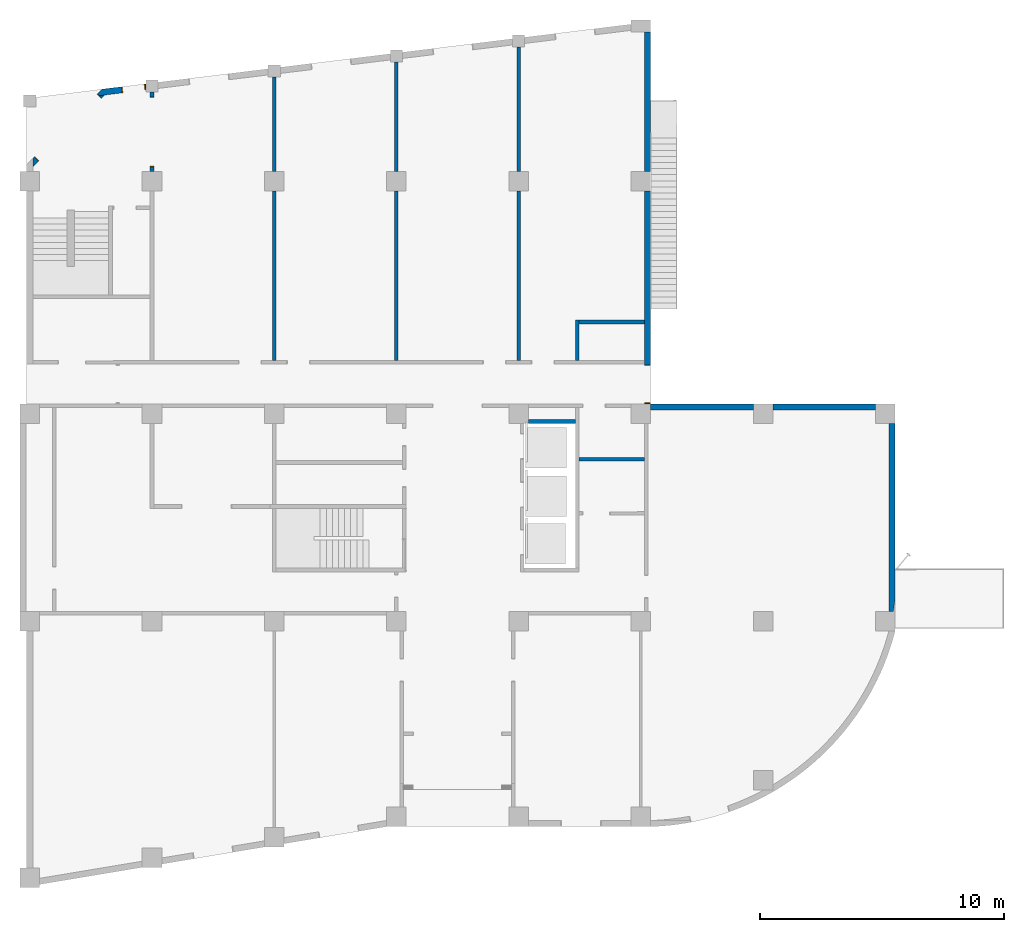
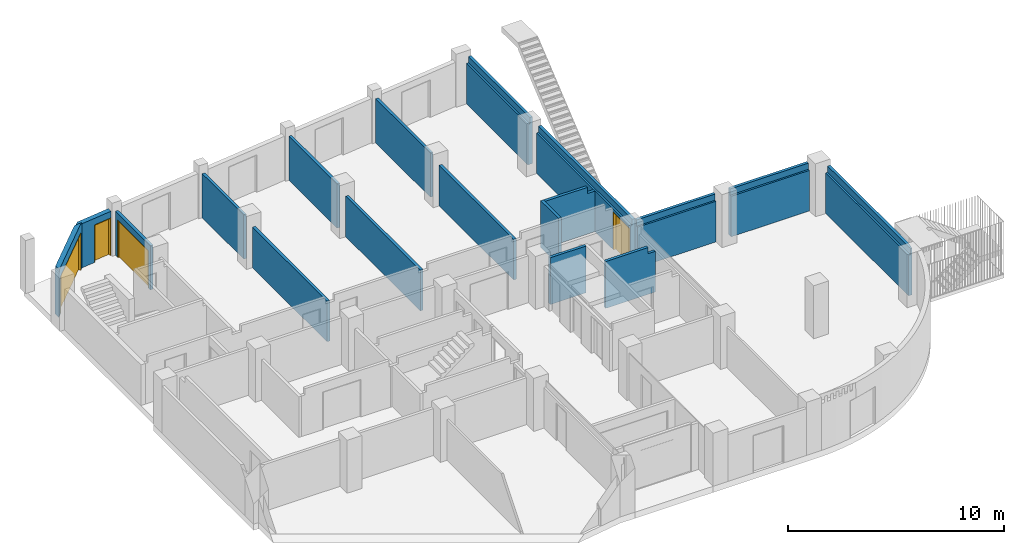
# One storey, part 7 of 9: 18 walls, 4 doors, 4 openings.
"""IFC2X3 building model written with IfcOpenShell, lengths in millimetres."""

from ifc_helpers import new_model, entity, si_unit, converted_unit, derived_unit, money_unit, direction, frame, origin_with_axes, place, context, subcontext, project, spatial, open_shell, faceted_brep, surface_model, material, type_object, element, fill, save


model = new_model("IFC2X3")

# Units and contexts
model_context = context("Model", 3, precision=0.01, world=origin_with_axes(), true_north=direction((0.0, 1.0)))
body_context = subcontext(model_context, "Body", "Model", "MODEL_VIEW")
ifc_project = project(units=[si_unit("LENGTHUNIT", "METRE", prefix="MILLI"), si_unit("AREAUNIT", "SQUARE_METRE"), si_unit("VOLUMEUNIT", "CUBIC_METRE"), converted_unit("PLANEANGLEUNIT", "DEGREE", entity("IfcPlaneAngleMeasure", 0.0174532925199), si_unit("PLANEANGLEUNIT", "RADIAN"), dimensions=[0, 0, 0, 0, 0, 0, 0]), si_unit("SOLIDANGLEUNIT", "STERADIAN"), money_unit("JPY"), converted_unit("TIMEUNIT", "Year", entity("IfcTimeMeasure", 31556926.0), si_unit("TIMEUNIT", "SECOND"), dimensions=[0, 0, 1, 0, 0, 0, 0]), si_unit("MASSUNIT", "GRAM", prefix="KILO"), si_unit("THERMODYNAMICTEMPERATUREUNIT", "DEGREE_CELSIUS"), si_unit("LUMINOUSINTENSITYUNIT", "LUMEN"), si_unit("ENERGYUNIT", "JOULE", prefix="MEGA"), derived_unit("THERMALCONDUCTANCEUNIT", [(si_unit("POWERUNIT", "WATT"), 1), (si_unit("LENGTHUNIT", "METRE"), -1), (si_unit("THERMODYNAMICTEMPERATUREUNIT", "KELVIN"), -1)]), derived_unit("SPECIFICHEATCAPACITYUNIT", [(si_unit("ENERGYUNIT", "JOULE"), 1), (si_unit("MASSUNIT", "GRAM", prefix="KILO"), -1), (si_unit("THERMODYNAMICTEMPERATUREUNIT", "KELVIN"), -1)]), derived_unit("MASSDENSITYUNIT", [(si_unit("MASSUNIT", "GRAM", prefix="KILO"), 1), (si_unit("VOLUMEUNIT", "CUBIC_METRE"), -1)])], contexts=[model_context])

# Site, building, storey
site_placement = place(None, origin_with_axes())
site = spatial("IfcSite", under=ifc_project, at=site_placement, Name="サイト", CompositionType="ELEMENT")
building_placement = place(site_placement, origin_with_axes())
building = spatial("IfcBuilding", under=site, at=building_placement, Name="建築", CompositionType="ELEMENT")
storey_placement = place(building_placement, origin_with_axes())
storey = spatial("IfcBuildingStorey", under=building, at=storey_placement, Name="1FL", CompositionType="ELEMENT", Elevation=0.0)

# Wall
ifc_material = material(Name="コンクリート")
wall_type_1 = type_object("IfcWallType", Name="コンクリート 150", PredefinedType="NOTDEFINED")
wall_1_placement = place(storey_placement, frame((22400.0, 6625.000045, 0.0), z_axis=(0.0, 0.0, 1.0), x_axis=(1.0, 0.0, 0.0)))
element("IfcWall", 1, at=wall_1_placement, inside=storey, type_object=wall_type_1, material=ifc_material, Name="W8", context=body_context, shape_type="Brep", body=[
    faceted_brep([(75.0, 75.0, 2650.0), (2350.0, 75.0, 2650.0), (2350.0, 75.0, 2300.0), (2749.9999795, 75.0, 2300.0), (2749.9999795, 75.0, 0.0), (75.0, 75.0, 0.0), (75.0, -75.0, 2650.0), (2350.0, -75.0, 2650.0), (2350.0, -75.0, 2300.0), (2749.9999795, -75.0, 2300.0), (2749.9999795, -75.0, 0.0), (75.0, -75.0, 0.0)], [[[0, 1, 2, 3, 4, 5]], [[6, 7, 1, 0]], [[8, 2, 1, 7]], [[8, 9, 3, 2]], [[4, 3, 9, 10]], [[11, 5, 4, 10]], [[5, 11, 6, 0]], [[9, 8, 7, 6, 11, 10]]]),
])

# Wall, opening, door
wall_2_placement = place(storey_placement, frame((5000.0, 21896.9524811, 0.0), z_axis=(0.0, 0.0, 1.0), x_axis=(0.0, -1.0, 0.0)))
wall_2 = element("IfcWall", 2, at=wall_2_placement, inside=storey, type_object=wall_type_1, material=ifc_material, Name="W1", context=body_context, shape_type="Brep", body=[
    faceted_brep([(3303.49998638, 75.0, 0.0), (3303.49998638, 75.0, 2130.0), (443.499986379, 75.0, 2130.0), (443.499986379, 75.0, 0.0), (250.0, 75.0, 0.0), (250.0, 75.0, 2500.0), (3496.95248113, 75.0, 2500.0), (3496.95248113, 75.0, 0.0), (3303.49998638, -75.0, 0.0), (3303.49998638, -75.0, 2130.0), (443.499986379, -75.0, 2130.0), (443.499986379, -75.0, 0.0), (250.0, -75.0, 0.0), (250.0, -75.0, 2500.0), (3496.95248113, -75.0, 2500.0), (3496.95248113, -75.0, 0.0)], [[[0, 1, 2, 3, 4, 5, 6, 7]], [[1, 0, 8, 9]], [[2, 1, 9, 10]], [[3, 2, 10, 11]], [[3, 11, 12, 4]], [[13, 5, 4, 12]], [[14, 6, 5, 13]], [[7, 6, 14, 15]], [[8, 0, 7, 15]], [[9, 8, 15, 14, 13, 12, 11, 10]]]),
])
opening_1_placement = place(wall_2_placement, frame((1873.49998638, 0.0, 0.0), z_axis=(0.0, 0.0, 1.0), x_axis=(1.0, 0.0, 0.0)))
opening_1 = element("IfcOpeningElement", 3, at=opening_1_placement, cuts=wall_2, Name="SD2", context=body_context, shape_type="Brep", body=[
    faceted_brep([(1430.0, 160.0, 0.0), (1430.0, 160.0, 2130.0), (1430.0, -160.0, 2130.0), (1430.0, -160.0, 0.0), (-1430.0, 160.0, 0.0), (-1430.0, 160.0, 2130.0), (-1430.0, -160.0, 2130.0), (-1430.0, -160.0, 0.0)], [[[0, 1, 2, 3]], [[0, 4, 5, 1]], [[1, 5, 6, 2]], [[3, 2, 6, 7]], [[4, 0, 3, 7]], [[5, 4, 7, 6]]]),
])
door_style_1 = type_object("IfcDoorStyle", Name="両引き分戸2", ConstructionType="NOTDEFINED", OperationType="NOTDEFINED", ParameterTakesPrecedence=False, Sizeable=False)
door_1_placement = place(opening_1_placement, frame((1400.0, 0.0, 0.0), z_axis=(0.0, 0.0, 1.0), x_axis=(-1.0, 0.0, 0.0)))
door_1 = element("IfcDoor", 4, at=door_1_placement, inside=storey, type_object=door_style_1, Name="SD2", OverallHeight=2150.0, OverallWidth=2900.0, context=body_context, shape_type="SurfaceModel", body=[
    surface_model("IfcShellBasedSurfaceModel", [(725.0, 0.0, 0.0), (0.0, 0.0, 0.0), (0.0, 0.0, 2100.0), (725.0, 0.0, 2100.0), (675.0, 0.0, 150.0), (675.0, 0.0, 2050.0), (50.0, 0.0, 2050.0), (50.0, 0.0, 150.0)], [open_shell([[[0, 1, 2, 3], [4, 5, 6, 7]]])]),
    surface_model("IfcShellBasedSurfaceModel", [(675.0, 0.0, 150.0), (50.0, 0.0, 150.0), (50.0, 0.0, 2050.0), (675.0, 0.0, 2050.0)], [open_shell([[[0, 1, 2, 3]]])]),
    surface_model("IfcShellBasedSurfaceModel", [(675.0, -10.5, 2100.0), (1400.0, -10.5, 2100.0), (1400.0, -10.5, 1950.0), (675.0, -10.5, 1950.0)], [open_shell([[[0, 1, 2, 3]]])]),
    surface_model("IfcShellBasedSurfaceModel", [(675.0, -10.5, 0.0), (675.0, -10.5, 150.0), (1400.0, -10.5, 150.0), (1400.0, -10.5, 0.0)], [open_shell([[[0, 1, 2, 3]]])]),
    surface_model("IfcShellBasedSurfaceModel", [(675.0, -10.5, 150.0), (675.0, -10.5, 1950.0), (1400.0, -10.5, 1950.0), (1400.0, -10.5, 150.0)], [open_shell([[[0, 1, 2, 3]]])]),
    surface_model("IfcShellBasedSurfaceModel", [(2125.0, -10.5, 2100.0), (2125.0, -10.5, 1950.0), (1400.0, -10.5, 1950.0), (1400.0, -10.5, 2100.0)], [open_shell([[[0, 1, 2, 3]]])]),
    surface_model("IfcShellBasedSurfaceModel", [(2125.0, -10.5, 0.0), (1400.0, -10.5, 0.0), (1400.0, -10.5, 150.0), (2125.0, -10.5, 150.0)], [open_shell([[[0, 1, 2, 3]]])]),
    surface_model("IfcShellBasedSurfaceModel", [(2125.0, -10.5, 150.0), (1400.0, -10.5, 150.0), (1400.0, -10.5, 1950.0), (2125.0, -10.5, 1950.0)], [open_shell([[[0, 1, 2, 3]]])]),
    surface_model("IfcShellBasedSurfaceModel", [(2800.0, 0.0, 0.0), (2075.0, 0.0, 0.0), (2075.0, 0.0, 2100.0), (2800.0, 0.0, 2100.0), (2750.0, 0.0, 150.0), (2750.0, 0.0, 2050.0), (2125.0, 0.0, 2050.0), (2125.0, 0.0, 150.0)], [open_shell([[[0, 1, 2, 3], [4, 5, 6, 7]]])]),
    surface_model("IfcShellBasedSurfaceModel", [(2750.0, 0.0, 150.0), (2125.0, 0.0, 150.0), (2125.0, 0.0, 2050.0), (2750.0, 0.0, 2050.0)], [open_shell([[[0, 1, 2, 3]]])]),
    surface_model("IfcShellBasedSurfaceModel", [(-30.0, 75.0, 0.0), (-30.0, 75.0, 2130.0), (2830.0, 75.0, 2130.0), (2830.0, 75.0, 0.0), (2800.0, 75.0, 0.0), (2800.0, 75.0, 2100.0), (0.0, 75.0, 2100.0), (0.0, 75.0, 0.0)], [open_shell([[[0, 1, 2, 3, 4, 5, 6, 7]]])]),
    surface_model("IfcShellBasedSurfaceModel", [(-30.0, -75.0, 0.0), (-30.0, -75.0, 2130.0), (2830.0, -75.0, 2130.0), (2830.0, -75.0, 0.0), (2800.0, -75.0, 0.0), (2800.0, -75.0, 2100.0), (0.0, -75.0, 2100.0), (0.0, -75.0, 0.0)], [open_shell([[[0, 1, 2, 3, 4, 5, 6, 7]]])]),
    surface_model("IfcShellBasedSurfaceModel", [(0.0, 75.0, 0.0), (0.0, 75.0, 2100.0), (0.0, -75.0, 2100.0), (0.0, -75.0, 0.0), (2800.0, 75.0, 2100.0), (2800.0, -75.0, 2100.0), (-30.0, 75.0, 0.0), (-30.0, -75.0, 0.0), (2800.0, 75.0, 0.0), (2800.0, -75.0, 0.0), (-30.0, 75.0, 2130.0), (-30.0, -75.0, 2130.0), (2830.0, 75.0, 0.0), (2830.0, -75.0, 0.0), (2830.0, 75.0, 2130.0), (2830.0, -75.0, 2130.0)], [open_shell([[[0, 1, 2, 3]], [[1, 4, 5, 2]], [[6, 0, 3, 7]], [[4, 8, 9, 5]], [[10, 6, 7, 11]], [[8, 12, 13, 9]], [[14, 10, 11, 15]], [[12, 14, 15, 13]]])]),
])
fill(opening_1, door_1)

# Walls
for number, where, z_axis, x_axis, name in (
    (5, (10000.0, 18000.0, 0.0), (0.0, 0.0, 1.0), (0.0, -1.0, 0.0), "W3"),
    (6, (15000.0, 18000.0, 0.0), (0.0, 0.0, 1.0), (0.0, -1.0, 0.0), "W4"),
):
    element("IfcWall", number, at=place(storey_placement, frame(where, z_axis=z_axis, x_axis=x_axis)), inside=storey, type_object=wall_type_1, material=ifc_material, Name=name, context=body_context, shape_type="Brep", body=[
        faceted_brep([(7325.0, 75.0, 0.0), (400.0, 75.0, 0.0), (400.0, 75.0, 2300.0), (7325.0, 75.0, 2300.0), (7325.0, -75.0, 0.0), (400.0, -75.0, 0.0), (400.0, -75.0, 2300.0), (7325.0, -75.0, 2300.0)], [[[0, 1, 2, 3]], [[4, 5, 1, 0]], [[5, 6, 2, 1]], [[3, 2, 6, 7]], [[4, 0, 3, 7]], [[7, 6, 5, 4]]]),
    ])
wall_3_placement = place(storey_placement, frame((15000.0, 18000.0, 0.0), z_axis=(0.0, 0.0, 1.0), x_axis=(0.0, 1.0, 0.0)))
element("IfcWall", 7, at=wall_3_placement, inside=storey, type_object=wall_type_1, material=ifc_material, Name="W5", context=body_context, shape_type="Brep", body=[
    faceted_brep([(4874.79809016, 75.0, 2500.0), (400.0, 75.0, 2500.0), (400.0, -75.0, 2500.0), (4874.79809016, -75.0, 2500.0), (4874.79809016, 75.0, 0.0), (400.0, 75.0, 0.0), (400.0, -75.0, 0.0), (4874.79809016, -75.0, 0.0)], [[[0, 1, 2, 3]], [[4, 5, 1, 0]], [[5, 6, 2, 1]], [[3, 2, 6, 7]], [[4, 0, 3, 7]], [[7, 6, 5, 4]]]),
])
wall_4_placement = place(storey_placement, frame((10000.0, 18000.0, 0.0), z_axis=(0.0, 0.0, 1.0), x_axis=(0.0, 1.0, 0.0)))
element("IfcWall", 8, at=wall_4_placement, inside=storey, type_object=wall_type_1, material=ifc_material, Name="W6", context=body_context, shape_type="Brep", body=[
    faceted_brep([(4260.87528565, 75.0, 2500.0), (400.0, 75.0, 2500.0), (400.0, -75.0, 2500.0), (4260.87528565, -75.0, 2500.0), (4260.87528565, 75.0, 0.0), (400.0, 75.0, 0.0), (400.0, -75.0, 0.0), (4260.87528565, -75.0, 0.0)], [[[0, 1, 2, 3]], [[4, 5, 1, 0]], [[5, 6, 2, 1]], [[3, 2, 6, 7]], [[4, 0, 3, 7]], [[7, 6, 5, 4]]]),
])
wall_5_placement = place(storey_placement, frame((20000.0, 23738.7208947, 0.0), z_axis=(0.0, 0.0, 1.0), x_axis=(0.0, -1.0, 0.0)))
element("IfcWall", 9, at=wall_5_placement, inside=storey, type_object=wall_type_1, material=ifc_material, Name="W7", context=body_context, shape_type="Brep", body=[
    faceted_brep([(250.0, -75.0, 2500.0), (5338.72089468, -75.0, 2500.0), (5338.72089468, 75.0, 2500.0), (250.0, 75.0, 2500.0), (250.0, -75.0, 0.0), (5338.72089468, -75.0, 0.0), (5338.72089468, 75.0, 0.0), (250.0, 75.0, 0.0)], [[[0, 1, 2, 3]], [[4, 5, 1, 0]], [[5, 6, 2, 1]], [[3, 2, 6, 7]], [[4, 0, 3, 7]], [[7, 6, 5, 4]]]),
])
wall_6_placement = place(storey_placement, frame((20000.0, 18000.0, 0.0), z_axis=(0.0, 0.0, 1.0), x_axis=(0.0, -1.0, 0.0)))
element("IfcWall", 10, at=wall_6_placement, inside=storey, type_object=wall_type_1, material=ifc_material, Name="W8", context=body_context, shape_type="Brep", body=[
    faceted_brep([(7325.0, 75.0, 0.0), (400.0, 75.0, 0.0), (400.0, 75.0, 2300.0), (7325.0, 75.0, 2300.0), (7325.0, -75.0, 0.0), (400.0, -75.0, 0.0), (400.0, -75.0, 2300.0), (7325.0, -75.0, 2300.0)], [[[0, 1, 2, 3]], [[4, 5, 1, 0]], [[5, 6, 2, 1]], [[3, 2, 6, 7]], [[4, 0, 3, 7]], [[7, 6, 5, 4]]]),
])
wall_7_placement = place(storey_placement, frame((22400.0000022, 10600.0, 0.0), z_axis=(0.0, 0.0, 1.0), x_axis=(0.0, 1.0, 0.0)))
element("IfcWall", 11, at=wall_7_placement, inside=storey, type_object=wall_type_1, material=ifc_material, Name="W9", context=body_context, shape_type="Brep", body=[
    faceted_brep([(1725.0, 75.0, 0.0), (1725.0, 75.0, 2650.0), (1725.0, -75.0, 2650.0), (1725.0, -75.0, 0.0), (75.0, 75.0, 0.0), (75.0, 75.0, 2650.0), (75.0, -75.0, 2650.0), (75.0, -75.0, 0.0)], [[[0, 1, 2, 3]], [[4, 5, 1, 0]], [[5, 6, 2, 1]], [[3, 2, 6, 7]], [[4, 0, 3, 7]], [[7, 6, 5, 4]]]),
])
wall_8_placement = place(storey_placement, frame((20150.0, 8175.0, 0.0), z_axis=(0.0, 0.0, 1.0), x_axis=(1.0, 0.0, 0.0)))
element("IfcWall", 12, at=wall_8_placement, inside=storey, type_object=wall_type_1, material=ifc_material, Name="W8", context=body_context, shape_type="Brep", body=[
    faceted_brep([(2175.0, 75.0, 0.0), (250.0, 75.0, 0.0), (250.0, 75.0, 2650.0), (2175.0, 75.0, 2650.0), (2175.0, -75.0, 0.0), (250.0, -75.0, 0.0), (250.0, -75.0, 2650.0), (2175.0, -75.0, 2650.0)], [[[0, 1, 2, 3]], [[4, 5, 1, 0]], [[5, 6, 2, 1]], [[3, 2, 6, 7]], [[7, 4, 0, 3]], [[7, 6, 5, 4]]]),
])
wall_9_placement = place(storey_placement, frame((22400.0000022, 12250.0, 0.0), z_axis=(0.0, 0.0, 1.0), x_axis=(1.0, 0.0, 0.0)))
element("IfcWall", 13, at=wall_9_placement, inside=storey, type_object=wall_type_1, material=ifc_material, Name="W0", context=body_context, shape_type="Brep", body=[
    faceted_brep([(75.0, 75.0, 2650.0), (2349.99999782, 75.0, 2650.0), (2349.99999782, 75.0, 2300.0), (2750.0, 75.0, 2300.0), (2750.0, 75.0, 0.0), (75.0, 75.0, 0.0), (75.0, -75.0, 2650.0), (2349.99999782, -75.0, 2650.0), (2349.99999782, -75.0, 2300.0), (2750.0, -75.0, 2300.0), (2750.0, -75.0, 0.0), (75.0, -75.0, 0.0)], [[[0, 1, 2, 3, 4, 5]], [[6, 7, 1, 0]], [[8, 2, 1, 7]], [[8, 9, 3, 2]], [[4, 3, 9, 10]], [[11, 5, 4, 10]], [[5, 11, 6, 0]], [[9, 8, 7, 6, 11, 10]]]),
])
wall_type_2 = type_object("IfcWallType", Name="コンクリート 250", PredefinedType="NOTDEFINED")
wall_10_placement = place(storey_placement, frame((35274.9999654, -400.0, 0.0), z_axis=(0.0, 0.0, 1.0), x_axis=(0.0, 1.0, 0.0)))
element("IfcWall", 14, at=wall_10_placement, inside=storey, type_object=wall_type_2, material=ifc_material, Name="W0", context=body_context, shape_type="Brep", body=[
    faceted_brep([(8500.0, 24.9999654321, 2650.0), (800.0, 24.9999654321, 2650.0), (800.0, -49.6592128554, 2650.0), (925.128562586, -72.9281833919, 2650.0), (1242.6191428, -121.906495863, 2650.0), (1267.79551643, -125.000004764, 2650.0), (8500.0, -125.000034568, 2650.0), (8500.0, 24.9999654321, 2300.0), (800.0, 24.9999654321, 2300.0), (800.0, 125.0, 0.0), (800.0, -49.6592128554, 0.0), (800.0, 125.0, 2300.0), (925.128562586, -72.9281833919, 0.0), (1242.6191428, -121.906495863, 0.0), (1267.79551643, -125.0, 0.0), (8500.0, -125.000034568, 0.0), (8500.0, 125.0, 0.0), (8500.0, 125.0, 2300.0)], [[[0, 1, 2, 3, 4, 5, 6]], [[7, 8, 1, 0]], [[9, 10, 2, 1, 8, 11]], [[3, 2, 10, 12]], [[3, 12, 13, 4]], [[4, 13, 14, 5]], [[14, 15, 6, 5]], [[7, 0, 6, 15, 16, 17]], [[17, 11, 8, 7]], [[12, 10, 9, 16, 15, 14, 13]], [[16, 9, 11, 17]]]),
])
wall_11_placement = place(storey_placement, frame((35274.9999654, 8774.99999002, 0.0), z_axis=(0.0, 0.0, 1.0), x_axis=(-1.0, 0.0, 0.0)))
element("IfcWall", 15, at=wall_11_placement, inside=storey, type_object=wall_type_2, material=ifc_material, Name="W0", context=body_context, shape_type="Brep", body=[
    faceted_brep([(4874.99996543, 24.9999900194, 2650.0), (674.999965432, 24.9999900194, 2650.0), (674.999965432, -125.000009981, 2650.0), (4874.99996543, -125.000009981, 2650.0), (4874.99996543, 24.9999900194, 2300.0), (674.999965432, 24.9999900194, 2300.0), (674.999965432, 125.0, 0.0), (674.999965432, -125.000009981, 0.0), (674.999965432, 125.000010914, 2300.0), (4874.99996543, -125.000009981, 0.0), (4874.99996543, 125.0, 0.0), (4874.99996543, 125.000000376, 2300.0)], [[[0, 1, 2, 3]], [[4, 5, 1, 0]], [[6, 7, 2, 1, 5, 8]], [[3, 2, 7, 9]], [[4, 0, 3, 9, 10, 11]], [[11, 8, 5, 4]], [[9, 7, 6, 10]], [[10, 6, 8, 11]]]),
])
wall_12_placement = place(storey_placement, frame((30000.0, 8775.0, 0.0), z_axis=(0.0, 0.0, 1.0), x_axis=(-1.0, 0.0, 0.0)))
element("IfcWall", 16, at=wall_12_placement, inside=storey, type_object=wall_type_2, material=ifc_material, Name="W1", context=body_context, shape_type="Brep", body=[
    faceted_brep([(4600.0, 25.0, 2650.0), (400.0, 25.0, 2650.0), (400.0, -125.0, 2650.0), (4600.0, -125.0, 2650.0), (4600.0, 25.0, 2300.0), (400.0, 25.0, 2300.0), (400.0, 125.0, 0.0), (400.0, -125.0, 0.0), (400.0, 125.0, 2300.0), (4600.0, -125.0, 0.0), (4600.0, 125.0, 0.0), (4600.0, 125.0, 2300.0)], [[[0, 1, 2, 3]], [[4, 5, 1, 0]], [[6, 7, 2, 1, 5, 8]], [[3, 2, 7, 9]], [[4, 0, 3, 9, 10, 11]], [[11, 8, 5, 4]], [[9, 7, 6, 10]], [[10, 6, 8, 11]]]),
])

# Wall, opening, door
wall_13_placement = place(storey_placement, frame((25275.0000022, 8825.000045, 0.0), z_axis=(0.0, 0.0, 1.0), x_axis=(0.0, 1.0, 0.0)))
wall_13 = element("IfcWall", 17, at=wall_13_placement, inside=storey, type_object=wall_type_2, material=ifc_material, Name="W2", context=body_context, shape_type="Brep", body=[
    faceted_brep([(107.499955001, -124.999997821, 0.0), (107.499955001, -124.999997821, 2130.0), (1667.499955, -124.999997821, 2130.0), (1667.499955, -124.999997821, 0.0), (8774.999955, -124.999997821, 0.0), (8774.999955, -124.999997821, 2650.0), (74.999955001, -124.999997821, 2650.0), (74.999955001, -124.999997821, 0.0), (107.499955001, 125.0, 0.0), (107.499955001, 125.0, 2130.0), (1667.499955, 125.0, 2130.0), (1667.499955, 125.0, 0.0), (8774.999955, 125.0, 0.0), (8774.999955, 125.0, 2300.0), (8774.999955, 25.0000021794, 2300.0), (8774.999955, 25.0000021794, 2650.0), (74.999955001, 25.0000021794, 2650.0), (74.999955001, 25.0000021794, 2300.0), (74.999955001, 125.0, 2300.0), (74.999955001, 125.0, 0.0)], [[[0, 1, 2, 3, 4, 5, 6, 7]], [[1, 0, 8, 9]], [[2, 1, 9, 10]], [[3, 2, 10, 11]], [[3, 11, 12, 4]], [[4, 12, 13, 14, 15, 5]], [[16, 6, 5, 15]], [[16, 17, 18, 19, 7, 6]], [[8, 0, 7, 19]], [[9, 8, 19, 18, 13, 12, 11, 10]], [[18, 17, 14, 13]], [[17, 16, 15, 14]]]),
])
opening_2_placement = place(wall_13_placement, frame((887.499955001, 0.0, 0.0), z_axis=(0.0, 0.0, 1.0), x_axis=(1.0, 0.0, 0.0)))
opening_2 = element("IfcOpeningElement", 18, at=opening_2_placement, cuts=wall_13, Name="SD5", context=body_context, shape_type="Brep", body=[
    faceted_brep([(-780.0, -260.0, 0.0), (-780.0, -260.0, 2130.0), (-780.0, 260.0, 2130.0), (-780.0, 260.0, 0.0), (780.0, -260.0, 0.0), (780.0, -260.0, 2130.0), (780.0, 260.0, 2130.0), (780.0, 260.0, 0.0)], [[[0, 1, 2, 3]], [[0, 4, 5, 1]], [[1, 5, 6, 2]], [[3, 2, 6, 7]], [[4, 0, 3, 7]], [[5, 4, 7, 6]]]),
])
door_style_2 = type_object("IfcDoorStyle", Name="自由開き戸", ConstructionType="NOTDEFINED", OperationType="NOTDEFINED", ParameterTakesPrecedence=False, Sizeable=False)
door_2_placement = place(opening_2_placement, frame((750.0, 0.0, 0.0), z_axis=(0.0, 0.0, 1.0), x_axis=(-1.0, 0.0, 0.0)))
door_2 = element("IfcDoor", 19, at=door_2_placement, inside=storey, type_object=door_style_2, Name="SD5", OverallHeight=2150.0, OverallWidth=1600.0, context=body_context, shape_type="SurfaceModel", body=[
    surface_model("IfcShellBasedSurfaceModel", [(750.0, 0.0, 0.0), (0.0, 0.0, 0.0), (0.0, 0.0, 2100.0), (750.0, 0.0, 2100.0)], [open_shell([[[0, 1, 2, 3]]])]),
    surface_model("IfcShellBasedSurfaceModel", [(750.0, 0.0, 0.0), (750.0, 0.0, 2100.0), (1500.0, 0.0, 2100.0), (1500.0, 0.0, 0.0)], [open_shell([[[0, 1, 2, 3]]])]),
    surface_model("IfcShellBasedSurfaceModel", [(1530.0, 125.0, 0.0), (1500.0, 125.0, 0.0), (1500.0, 125.0, 2100.0), (0.0, 125.0, 2100.0), (0.0, 125.0, 0.0), (-30.0, 125.0, 0.0), (-30.0, 125.0, 2130.0), (1530.0, 125.0, 2130.0)], [open_shell([[[0, 1, 2, 3, 4, 5, 6, 7]]])]),
    surface_model("IfcShellBasedSurfaceModel", [(1530.0, -125.0, 0.0), (1500.0, -125.0, 0.0), (1500.0, -125.0, 2100.0), (0.0, -125.0, 2100.0), (0.0, -125.0, 0.0), (-30.0, -125.0, 0.0), (-30.0, -125.0, 2130.0), (1530.0, -125.0, 2130.0)], [open_shell([[[0, 1, 2, 3, 4, 5, 6, 7]]])]),
    surface_model("IfcShellBasedSurfaceModel", [(1500.0, 125.0, 0.0), (1500.0, -125.0, 0.0), (1500.0, -125.0, 2100.0), (1500.0, 125.0, 2100.0), (1530.0, 125.0, 0.0), (1530.0, -125.0, 0.0), (0.0, -125.0, 2100.0), (0.0, 125.0, 2100.0), (1530.0, 125.0, 2130.0), (1530.0, -125.0, 2130.0), (0.0, -125.0, 0.0), (0.0, 125.0, 0.0), (-30.0, 125.0, 2130.0), (-30.0, -125.0, 2130.0), (-30.0, -125.0, 0.0), (-30.0, 125.0, 0.0)], [open_shell([[[0, 1, 2, 3]], [[4, 5, 1, 0]], [[3, 2, 6, 7]], [[8, 9, 5, 4]], [[7, 6, 10, 11]], [[12, 13, 9, 8]], [[11, 10, 14, 15]], [[15, 14, 13, 12]]])]),
])
fill(opening_2, door_2)

# Wall
wall_14_placement = place(storey_placement, frame((25275.0000022, 18000.0, 0.0), z_axis=(0.0, 0.0, 1.0), x_axis=(0.0, 1.0, 0.0)))
element("IfcWall", 20, at=wall_14_placement, inside=storey, type_object=wall_type_2, material=ifc_material, Name="W3", context=body_context, shape_type="Brep", body=[
    faceted_brep([(6102.64369919, 25.0000021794, 2650.0), (400.0, 25.0000021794, 2650.0), (400.0, -124.999997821, 2650.0), (6102.64369919, -124.999997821, 2650.0), (6102.64369919, 25.0000021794, 2300.0), (400.0, 25.0000021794, 2300.0), (400.0, 125.0, 0.0), (400.0, -124.999997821, 0.0), (400.0, 125.0, 2300.0), (6102.64369919, -124.999997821, 0.0), (6102.64369919, 125.0, 0.0), (6102.64369919, 125.0, 2300.0)], [[[0, 1, 2, 3]], [[4, 5, 1, 0]], [[6, 7, 2, 1, 5, 8]], [[3, 2, 7, 9]], [[4, 0, 3, 9, 10, 11]], [[11, 8, 5, 4]], [[9, 7, 6, 10]], [[10, 6, 8, 11]]]),
])

# Wall, opening, door
wall_15_placement = place(storey_placement, frame((5000.0, 21896.9524811, 0.0), z_axis=(0.0, 0.0, 1.0), x_axis=(-0.992546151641, -0.121869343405, 0.0)))
wall_15 = element("IfcWall", 21, at=wall_15_placement, inside=storey, type_object=wall_type_2, material=ifc_material, Name="W8", context=body_context, shape_type="Brep", body=[
    faceted_brep([(2176.76323953, 125.0, 2130.0), (2176.76323953, 125.0, 0.0), (1241.73471986, 125.0, 0.0), (1241.73471986, 125.0, 2130.0), (281.734719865, 125.0, 2130.0), (281.734719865, 125.0, 0.0), (267.225526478, 125.0, 0.0), (267.225526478, 125.0, 2500.0), (2363.02635971, 125.0, 2500.0), (2363.02635971, 125.0, 2130.0), (2247.36423607, 34.6348452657, 2130.0), (2247.36423607, 34.6348452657, 0.0), (2043.04095166, -125.0, 0.0), (1241.73471986, -125.0, 0.0), (1241.73471986, -125.0, 2130.0), (281.734719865, -125.0, 2130.0), (281.734719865, -125.0, 0.0), (236.529386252, -125.0, 0.0), (236.529386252, -125.0, 2500.0), (2043.04095166, -125.0, 2500.0)], [[[0, 1, 2, 3, 4, 5, 6, 7, 8, 9]], [[1, 0, 10, 11]], [[1, 11, 12, 13, 2]], [[14, 3, 2, 13]], [[15, 4, 3, 14]], [[16, 5, 4, 15]], [[6, 5, 16, 17]], [[6, 17, 18, 7]], [[8, 7, 18, 19]], [[10, 9, 8, 19, 12, 11]], [[0, 9, 10]], [[15, 14, 13, 12, 19, 18, 17, 16]]]),
])
opening_3_placement = place(wall_15_placement, frame((761.734719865, 0.0, 0.0), z_axis=(0.0, 0.0, 1.0), x_axis=(1.0, 0.0, 0.0)))
opening_3 = element("IfcOpeningElement", 22, at=opening_3_placement, cuts=wall_15, Name="SD3", context=body_context, shape_type="Brep", body=[
    faceted_brep([(480.0, 260.0, 0.0), (480.0, 260.0, 2130.0), (480.0, -260.0, 2130.0), (480.0, -260.0, 0.0), (-480.0, 260.0, 0.0), (-480.0, 260.0, 2130.0), (-480.0, -260.0, 2130.0), (-480.0, -260.0, 0.0)], [[[0, 1, 2, 3]], [[0, 4, 5, 1]], [[1, 5, 6, 2]], [[3, 2, 6, 7]], [[4, 0, 3, 7]], [[5, 4, 7, 6]]]),
])
door_style_3 = type_object("IfcDoorStyle", Name="片開き戸", ConstructionType="NOTDEFINED", OperationType="NOTDEFINED", ParameterTakesPrecedence=False, Sizeable=False)
door_3_placement = place(opening_3_placement, frame((450.0, 0.0, 0.0), z_axis=(0.0, 0.0, 1.0), x_axis=(-1.0, 0.0, 0.0)))
door_3 = element("IfcDoor", 23, at=door_3_placement, inside=storey, type_object=door_style_3, Name="SD3", OverallHeight=2165.0, OverallWidth=1030.0, context=body_context, shape_type="SurfaceModel", body=[
    surface_model("IfcShellBasedSurfaceModel", [(0.0, 0.0, 0.0), (0.0, 0.0, 2100.0), (900.0, 0.0, 2100.0), (900.0, 0.0, 0.0)], [open_shell([[[0, 1, 2, 3]]])]),
    surface_model("IfcShellBasedSurfaceModel", [(-30.0, 125.0, 0.0), (-30.0, 125.0, 2130.0), (930.0, 125.0, 2130.0), (930.0, 125.0, 0.0), (900.0, 125.0, 0.0), (900.0, 125.0, 2100.0), (0.0, 125.0, 2100.0), (0.0, 125.0, 0.0)], [open_shell([[[0, 1, 2, 3, 4, 5, 6, 7]]])]),
    surface_model("IfcShellBasedSurfaceModel", [(-30.0, -125.0, 0.0), (-30.0, -125.0, 2130.0), (930.0, -125.0, 2130.0), (930.0, -125.0, 0.0), (900.0, -125.0, 0.0), (900.0, -125.0, 2100.0), (0.0, -125.0, 2100.0), (0.0, -125.0, 0.0)], [open_shell([[[0, 1, 2, 3, 4, 5, 6, 7]]])]),
    surface_model("IfcShellBasedSurfaceModel", [(0.0, 125.0, 0.0), (0.0, 125.0, 2100.0), (0.0, -125.0, 2100.0), (0.0, -125.0, 0.0), (900.0, 125.0, 2100.0), (900.0, -125.0, 2100.0), (-30.0, 125.0, 0.0), (-30.0, -125.0, 0.0), (900.0, 125.0, 0.0), (900.0, -125.0, 0.0), (-30.0, 125.0, 2130.0), (-30.0, -125.0, 2130.0), (930.0, 125.0, 0.0), (930.0, -125.0, 0.0), (930.0, 125.0, 2130.0), (930.0, -125.0, 2130.0)], [open_shell([[[0, 1, 2, 3]], [[1, 4, 5, 2]], [[6, 0, 3, 7]], [[4, 8, 9, 5]], [[10, 6, 7, 11]], [[8, 12, 13, 9]], [[14, 10, 11, 15]], [[12, 14, 15, 13]]])]),
])
fill(opening_3, door_3)

wall_16_placement = place(storey_placement, frame((3014.90769672, 21653.2137943, 0.0), z_axis=(0.0, 0.0, 1.0), x_axis=(-0.707106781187, -0.707106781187, 0.0)))
wall_16 = element("IfcWall", 24, at=wall_16_placement, inside=storey, type_object=wall_type_2, material=ifc_material, Name="W8", context=body_context, shape_type="Brep", body=[
    faceted_brep([(3876.24901801, 125.0, 0.0), (3876.24901801, 125.0, 2130.0), (216.249018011, 125.0, 2130.0), (216.249018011, 125.0, 0.0), (43.0409516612, 125.0, 0.0), (43.0409516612, 125.0, 2500.0), (164.861145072, 125.0, 2500.0), (164.861145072, 125.0, 2650.0), (4105.88064153, 125.0, 2650.0), (4105.88064153, 125.0, 2500.0), (4211.9466587, 125.0, 2500.0), (4211.9466587, 125.0, 0.0), (3876.24901801, -125.0, 0.0), (3876.24901801, -125.0, 2130.0), (363.026359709, -125.0, 2130.0), (216.249018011, -10.3249726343, 2130.0), (216.249018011, -10.3249726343, 0.0), (363.026359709, -125.0, 2500.0), (484.846553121, -125.0, 2500.0), (484.846553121, -125.0, 2650.0), (3855.88064153, -125.0, 2650.0), (3855.88064153, -125.0, 2500.0), (3961.9466587, -125.0, 2500.0), (3961.9466587, -125.0, 0.0)], [[[0, 1, 2, 3, 4, 5, 6, 7, 8, 9, 10, 11]], [[1, 0, 12, 13]], [[2, 1, 13, 14, 15]], [[3, 2, 15, 16]], [[3, 16, 4]], [[15, 14, 17, 5, 4, 16]], [[17, 18, 6, 5]], [[6, 18, 19, 7]], [[7, 19, 20, 8]], [[21, 9, 8, 20]], [[10, 9, 21, 22]], [[23, 11, 10, 22]], [[12, 0, 11, 23]], [[13, 12, 23, 22, 21, 20, 19, 18, 17, 14]]]),
])
opening_4_placement = place(wall_16_placement, frame((2046.24901801, 0.0, 0.0), z_axis=(0.0, 0.0, 1.0), x_axis=(1.0, 0.0, 0.0)))
opening_4 = element("IfcOpeningElement", 25, at=opening_4_placement, cuts=wall_16, Name="SD1", context=body_context, shape_type="Brep", body=[
    faceted_brep([(-1830.0, -260.0, 0.0), (-1830.0, -260.0, 2130.0), (-1830.0, 260.0, 2130.0), (-1830.0, 260.0, 0.0), (1830.0, -260.0, 0.0), (1830.0, -260.0, 2130.0), (1830.0, 260.0, 2130.0), (1830.0, 260.0, 0.0)], [[[0, 1, 2, 3]], [[0, 4, 5, 1]], [[1, 5, 6, 2]], [[3, 2, 6, 7]], [[4, 0, 3, 7]], [[5, 4, 7, 6]]]),
])
door_4_placement = place(opening_4_placement, frame((1800.0, 0.0, 0.0), z_axis=(0.0, 0.0, 1.0), x_axis=(-1.0, 0.0, 0.0)))
door_4 = element("IfcDoor", 26, at=door_4_placement, inside=storey, type_object=door_style_1, Name="SD1", OverallHeight=2150.0, OverallWidth=3700.0, context=body_context, shape_type="SurfaceModel", body=[
    surface_model("IfcShellBasedSurfaceModel", [(2675.0, 0.0, 0.0), (2675.0, 0.0, 2100.0), (3600.0, 0.0, 2100.0), (3600.0, 0.0, 0.0), (2725.0, 0.0, 150.0), (3550.0, 0.0, 150.0), (3550.0, 0.0, 2050.0), (2725.0, 0.0, 2050.0)], [open_shell([[[0, 1, 2, 3], [4, 5, 6, 7]]])]),
    surface_model("IfcShellBasedSurfaceModel", [(2725.0, 0.0, 150.0), (2725.0, 0.0, 2050.0), (3550.0, 0.0, 2050.0), (3550.0, 0.0, 150.0)], [open_shell([[[0, 1, 2, 3]]])]),
    surface_model("IfcShellBasedSurfaceModel", [(2725.0, -10.5, 2100.0), (2725.0, -10.5, 1950.0), (1800.0, -10.5, 1950.0), (1800.0, -10.5, 2100.0)], [open_shell([[[0, 1, 2, 3]]])]),
    surface_model("IfcShellBasedSurfaceModel", [(2725.0, -10.5, 0.0), (1800.0, -10.5, 0.0), (1800.0, -10.5, 150.0), (2725.0, -10.5, 150.0)], [open_shell([[[0, 1, 2, 3]]])]),
    surface_model("IfcShellBasedSurfaceModel", [(2725.0, -10.5, 150.0), (1800.0, -10.5, 150.0), (1800.0, -10.5, 1950.0), (2725.0, -10.5, 1950.0)], [open_shell([[[0, 1, 2, 3]]])]),
    surface_model("IfcShellBasedSurfaceModel", [(875.0, -10.5, 2100.0), (1800.0, -10.5, 2100.0), (1800.0, -10.5, 1950.0), (875.0, -10.5, 1950.0)], [open_shell([[[0, 1, 2, 3]]])]),
    surface_model("IfcShellBasedSurfaceModel", [(875.0, -10.5, 0.0), (875.0, -10.5, 150.0), (1800.0, -10.5, 150.0), (1800.0, -10.5, 0.0)], [open_shell([[[0, 1, 2, 3]]])]),
    surface_model("IfcShellBasedSurfaceModel", [(875.0, -10.5, 150.0), (875.0, -10.5, 1950.0), (1800.0, -10.5, 1950.0), (1800.0, -10.5, 150.0)], [open_shell([[[0, 1, 2, 3]]])]),
    surface_model("IfcShellBasedSurfaceModel", [(0.0, 0.0, 0.0), (0.0, 0.0, 2100.0), (925.0, 0.0, 2100.0), (925.0, 0.0, 0.0), (50.0, 0.0, 150.0), (875.0, 0.0, 150.0), (875.0, 0.0, 2050.0), (50.0, 0.0, 2050.0)], [open_shell([[[0, 1, 2, 3], [4, 5, 6, 7]]])]),
    surface_model("IfcShellBasedSurfaceModel", [(50.0, 0.0, 150.0), (50.0, 0.0, 2050.0), (875.0, 0.0, 2050.0), (875.0, 0.0, 150.0)], [open_shell([[[0, 1, 2, 3]]])]),
    surface_model("IfcShellBasedSurfaceModel", [(3630.0, 125.0, 0.0), (3600.0, 125.0, 0.0), (3600.0, 125.0, 2100.0), (0.0, 125.0, 2100.0), (0.0, 125.0, 0.0), (-30.0, 125.0, 0.0), (-30.0, 125.0, 2130.0), (3630.0, 125.0, 2130.0)], [open_shell([[[0, 1, 2, 3, 4, 5, 6, 7]]])]),
    surface_model("IfcShellBasedSurfaceModel", [(3630.0, -125.0, 0.0), (3600.0, -125.0, 0.0), (3600.0, -125.0, 2100.0), (0.0, -125.0, 2100.0), (0.0, -125.0, 0.0), (-30.0, -125.0, 0.0), (-30.0, -125.0, 2130.0), (3630.0, -125.0, 2130.0)], [open_shell([[[0, 1, 2, 3, 4, 5, 6, 7]]])]),
    surface_model("IfcShellBasedSurfaceModel", [(3600.0, 125.0, 0.0), (3600.0, -125.0, 0.0), (3600.0, -125.0, 2100.0), (3600.0, 125.0, 2100.0), (3630.0, 125.0, 0.0), (3630.0, -125.0, 0.0), (0.0, -125.0, 2100.0), (0.0, 125.0, 2100.0), (3630.0, 125.0, 2130.0), (3630.0, -125.0, 2130.0), (0.0, -125.0, 0.0), (0.0, 125.0, 0.0), (-30.0, 125.0, 2130.0), (-30.0, -125.0, 2130.0), (-30.0, -125.0, 0.0), (-30.0, 125.0, 0.0)], [open_shell([[[0, 1, 2, 3]], [[4, 5, 1, 0]], [[3, 2, 6, 7]], [[8, 9, 5, 4]], [[7, 6, 10, 11]], [[12, 13, 9, 8]], [[11, 10, 14, 15]], [[15, 14, 13, 12]]])]),
])
fill(opening_4, door_4)

save(model, "model.ifc")
